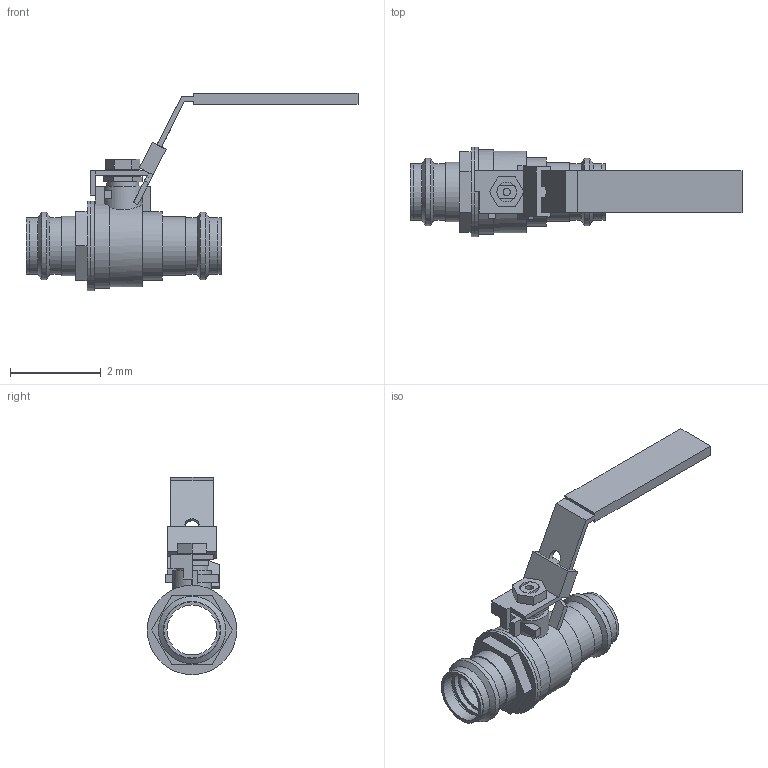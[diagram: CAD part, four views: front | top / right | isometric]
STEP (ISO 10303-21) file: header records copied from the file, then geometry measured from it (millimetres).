
FILE_DESCRIPTION(('Open CASCADE Model'),'2;1');
FILE_NAME('Open CASCADE Shape Model','2022-07-29T14:03:20',('Author'),( 'Open CASCADE'),'Open CASCADE STEP processor 7.3','Open CASCADE 7.3' ,'Unknown');
FILE_SCHEMA(('AUTOMOTIVE_DESIGN { 1 0 10303 214 1 1 1 1 }'));
Length unit declared in the file: millimetre
Products named in the file (10): Open CASCADE STEP translator 7.3 1; Open CASCADE STEP translator 7.3 1.1; Open CASCADE STEP translator 7.3 1.2; Open CASCADE STEP translator 7.3 1.3; Open CASCADE STEP translator 7.3 1.4; Open CASCADE STEP translator 7.3 1.5; Open CASCADE STEP translator 7.3 1.6; Open CASCADE STEP translator 7.3 1.7; Open CASCADE STEP translator 7.3 1.8; Open CASCADE STEP translator 7.3 1.9
Assembly tree (9 placements, depth 2):
  Open CASCADE STEP translator 7.3 1
    Open CASCADE STEP translator 7.3 1.1
    Open CASCADE STEP translator 7.3 1.2
    Open CASCADE STEP translator 7.3 1.3
    Open CASCADE STEP translator 7.3 1.4
    Open CASCADE STEP translator 7.3 1.5
    Open CASCADE STEP translator 7.3 1.6
    Open CASCADE STEP translator 7.3 1.7
    Open CASCADE STEP translator 7.3 1.8
    Open CASCADE STEP translator 7.3 1.9
Bounding box: 7.34 x 1.98 x 4.36 mm (x, y, z)
Volume: 5.4 mm3; surface area: 67.1 mm2
Topology: 5 solids, 9 shells, 147 faces, 381 edges, 253 vertices
Faces by surface type: plane 108, cylinder 33, cone 6
Full cylindrical faces by diameter (mm): 0.162 x1, 0.431 x1, 0.495 x1, 0.7 x1, 1.105 x5, 1.243 x2, 1.255 x4, 1.257 x4, 1.303 x1, 1.307 x1, 1.485 x2, 1.508 x1, 1.868 x1, 1.972 x1, 1.975 x1
Entity records: 10012 total; most frequent: CARTESIAN_POINT 2173, DIRECTION 1461, LINE 911, VECTOR 911, ORIENTED_EDGE 750, PCURVE 750, DEFINITIONAL_REPRESENTATION 750, EDGE_CURVE 381
